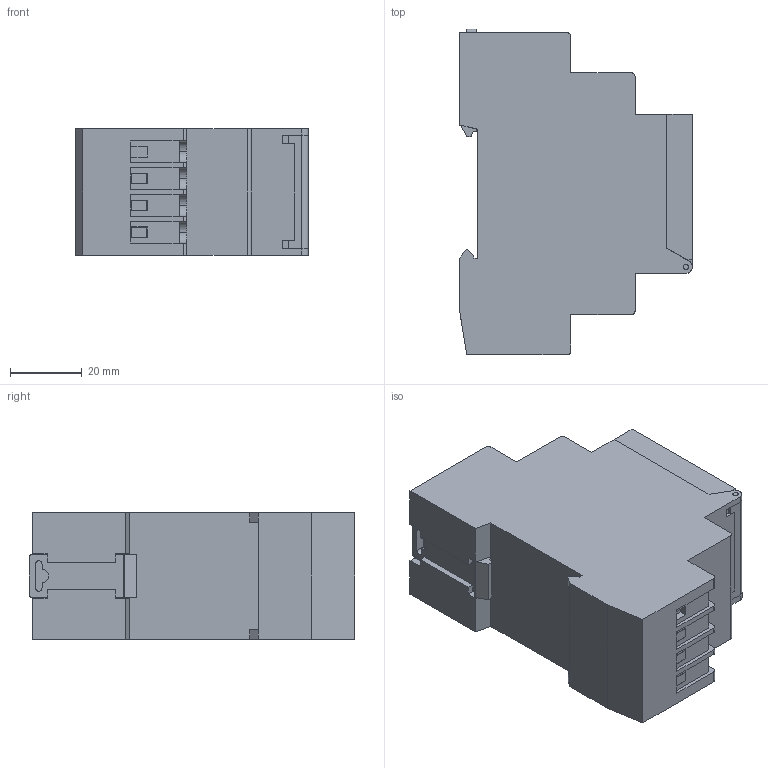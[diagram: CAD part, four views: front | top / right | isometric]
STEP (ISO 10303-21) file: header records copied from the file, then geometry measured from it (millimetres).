
FILE_DESCRIPTION (( 'STEP AP203' ), '1' );
FILE_NAME ('砫濇歑 灕鐨鍒鍣 RTE-WG.STEP', '2021-11-25T20:45:00', ( '' ), ( '' ), 'SwSTEP 2.0', 'SolidWorks 2017', '' );
FILE_SCHEMA (( 'CONFIG_CONTROL_DESIGN' ));
Length unit declared in the file: millimetre
Products named in the file (1): 砫濇歑 灕鐨鍒鍣 RTE-WG
Bounding box: 65 x 91 x 35.4 mm (x, y, z)
Volume: 151688.7 mm3; surface area: 27696.5 mm2
Topology: 15 solids, 15 shells, 422 faces, 1131 edges, 749 vertices
Faces by surface type: plane 312, cylinder 90, cone 12, torus 8
Entity records: 13180 total; most frequent: CARTESIAN_POINT 2303, ORIENTED_EDGE 2262, DIRECTION 2197, EDGE_CURVE 1131, LINE 911, VECTOR 911, VERTEX_POINT 749, AXIS2_PLACEMENT_3D 643
